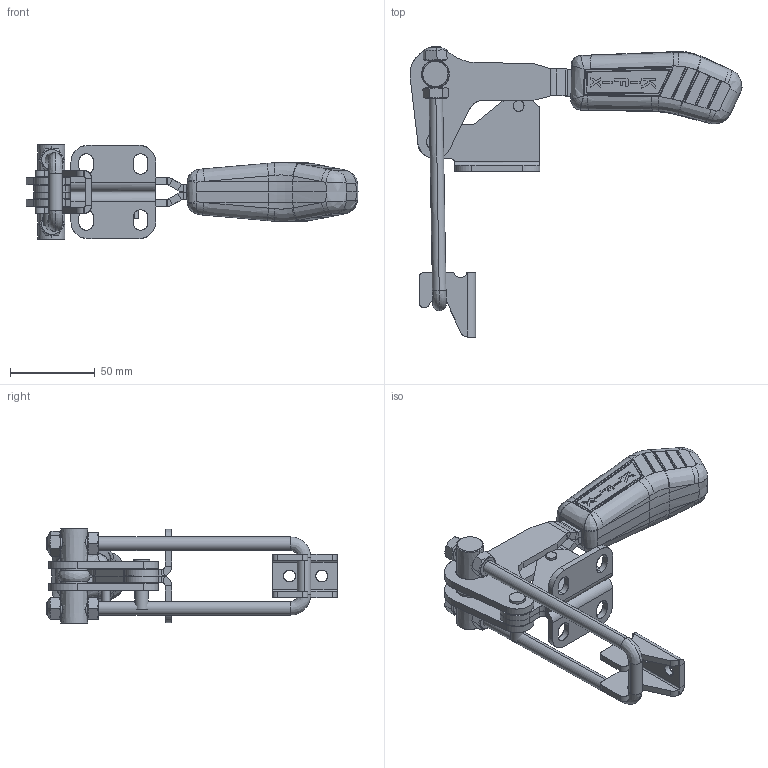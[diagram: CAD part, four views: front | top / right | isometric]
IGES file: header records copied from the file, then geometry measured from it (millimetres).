
Start section: SolidWorks IGES file using analytic representation for surfaces
Global section: file name: C:\Projetos\Grampos\KF-263\KF-263\KF-263.IGS; native system: SolidWorks 2018; preprocessor: SolidWorks 2018; author: Ricardo; date: 180612.142624; units: millimetre
Bounding box: 195.58 x 170.96 x 56.5 mm (x, y, z)
Surface area: 72853.9 mm2 (no closed solid volume)
Topology: 0 solids, 0 shells, 687 faces, 7713 edges, 7691 vertices
Faces by surface type: bspline 431, revolution 256
